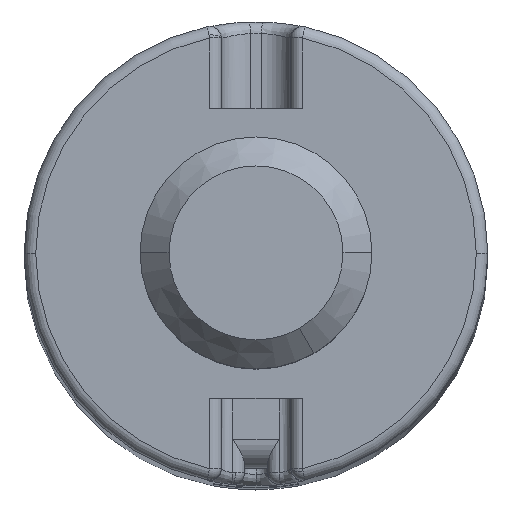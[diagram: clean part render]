
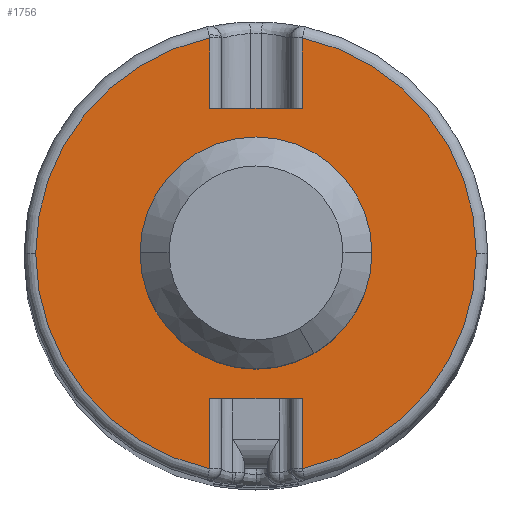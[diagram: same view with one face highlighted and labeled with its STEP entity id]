
A CAD part, top view. The second image highlights one B-rep face of the part: STEP entity #1756.
In plain terms, the highlighted planar face has unit normal (0, 0, 1).
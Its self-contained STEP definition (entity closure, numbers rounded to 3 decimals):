
#662=AXIS2_PLACEMENT_3D('Circle Axis2P3D',#660,#661,$) ;
#985=AXIS2_PLACEMENT_3D('Circle Axis2P3D',#983,#984,$) ;
#1619=AXIS2_PLACEMENT_3D('Circle Axis2P3D',#1617,#1618,$) ;
#1679=AXIS2_PLACEMENT_3D('Plane Axis2P3D',#1676,#1677,#1678) ;
#1716=AXIS2_PLACEMENT_3D('Circle Axis2P3D',#1714,#1715,$) ;
#1740=AXIS2_PLACEMENT_3D('Circle Axis2P3D',#1738,#1739,$) ;
#1749=AXIS2_PLACEMENT_3D('Circle Axis2P3D',#1747,#1748,$) ;
#643=CARTESIAN_POINT('Vertex',(3.8,0.,24.5)) ;
#657=CARTESIAN_POINT('Vertex',(0.8,3.715,24.5)) ;
#660=CARTESIAN_POINT('Axis2P3D Location',(0.,0.,24.5)) ;
#980=CARTESIAN_POINT('Vertex',(-3.8,0.,24.5)) ;
#983=CARTESIAN_POINT('Axis2P3D Location',(0.,0.,24.5)) ;
#987=CARTESIAN_POINT('Vertex',(-0.8,3.715,24.5)) ;
#1617=CARTESIAN_POINT('Axis2P3D Location',(0.,0.,24.5)) ;
#1621=CARTESIAN_POINT('Vertex',(0.8,-3.715,24.5)) ;
#1676=CARTESIAN_POINT('Axis2P3D Location',(0.,0.,24.5)) ;
#1681=CARTESIAN_POINT('Line Origine',(0.,-2.5,24.5)) ;
#1685=CARTESIAN_POINT('Vertex',(0.8,-2.5,24.5)) ;
#1687=CARTESIAN_POINT('Vertex',(-0.8,-2.5,24.5)) ;
#1690=CARTESIAN_POINT('Line Origine',(0.8,-3.107,24.5)) ;
#1695=CARTESIAN_POINT('Line Origine',(0.8,3.107,24.5)) ;
#1699=CARTESIAN_POINT('Vertex',(0.8,2.5,24.5)) ;
#1702=CARTESIAN_POINT('Line Origine',(0.,2.5,24.5)) ;
#1706=CARTESIAN_POINT('Vertex',(-0.8,2.5,24.5)) ;
#1709=CARTESIAN_POINT('Line Origine',(-0.8,3.107,24.5)) ;
#1714=CARTESIAN_POINT('Axis2P3D Location',(0.,0.,24.5)) ;
#1718=CARTESIAN_POINT('Vertex',(-0.8,-3.715,24.5)) ;
#1721=CARTESIAN_POINT('Line Origine',(-0.8,-3.107,24.5)) ;
#1738=CARTESIAN_POINT('Axis2P3D Location',(0.,0.,24.5)) ;
#1742=CARTESIAN_POINT('Vertex',(-2.,0.,24.5)) ;
#1744=CARTESIAN_POINT('Vertex',(2.,0.,24.5)) ;
#1747=CARTESIAN_POINT('Axis2P3D Location',(0.,0.,24.5)) ;
#661=DIRECTION('Axis2P3D Direction',(-0.,0.,1.)) ;
#984=DIRECTION('Axis2P3D Direction',(-0.,0.,1.)) ;
#1618=DIRECTION('Axis2P3D Direction',(0.,0.,1.)) ;
#1677=DIRECTION('Axis2P3D Direction',(0.,0.,1.)) ;
#1678=DIRECTION('Axis2P3D XDirection',(1.,0.,0.)) ;
#1682=DIRECTION('Vector Direction',(1.,0.,0.)) ;
#1691=DIRECTION('Vector Direction',(0.,1.,0.)) ;
#1696=DIRECTION('Vector Direction',(0.,1.,0.)) ;
#1703=DIRECTION('Vector Direction',(1.,0.,0.)) ;
#1710=DIRECTION('Vector Direction',(0.,-1.,0.)) ;
#1715=DIRECTION('Axis2P3D Direction',(0.,0.,1.)) ;
#1722=DIRECTION('Vector Direction',(0.,-1.,0.)) ;
#1739=DIRECTION('Axis2P3D Direction',(0.,0.,1.)) ;
#1748=DIRECTION('Axis2P3D Direction',(0.,0.,1.)) ;
#1683=VECTOR('Line Direction',#1682,1.) ;
#1692=VECTOR('Line Direction',#1691,1.) ;
#1697=VECTOR('Line Direction',#1696,1.) ;
#1704=VECTOR('Line Direction',#1703,1.) ;
#1711=VECTOR('Line Direction',#1710,1.) ;
#1723=VECTOR('Line Direction',#1722,1.) ;
#1727=ORIENTED_EDGE('',*,*,#1689,.F.) ;
#1728=ORIENTED_EDGE('',*,*,#1694,.F.) ;
#1729=ORIENTED_EDGE('',*,*,#1623,.T.) ;
#1730=ORIENTED_EDGE('',*,*,#664,.T.) ;
#1731=ORIENTED_EDGE('',*,*,#1701,.F.) ;
#1732=ORIENTED_EDGE('',*,*,#1708,.F.) ;
#1733=ORIENTED_EDGE('',*,*,#1713,.F.) ;
#1734=ORIENTED_EDGE('',*,*,#989,.T.) ;
#1735=ORIENTED_EDGE('',*,*,#1720,.T.) ;
#1736=ORIENTED_EDGE('',*,*,#1725,.F.) ;
#1753=ORIENTED_EDGE('',*,*,#1746,.F.) ;
#1754=ORIENTED_EDGE('',*,*,#1751,.F.) ;
#1755=FACE_BOUND('',#1752,.T.) ;
#1756=ADVANCED_FACE('\X2\96F64EF651E04F554F53\X0\',(#1737,#1755),#1680,.T.) ;
#663=CIRCLE('generated circle',#662,3.8) ;
#986=CIRCLE('generated circle',#985,3.8) ;
#1620=CIRCLE('generated circle',#1619,3.8) ;
#1717=CIRCLE('generated circle',#1716,3.8) ;
#1741=CIRCLE('generated circle',#1740,2.) ;
#1750=CIRCLE('generated circle',#1749,2.) ;
#664=EDGE_CURVE('',#644,#658,#663,.T.) ;
#989=EDGE_CURVE('',#988,#981,#986,.T.) ;
#1623=EDGE_CURVE('',#1622,#644,#1620,.T.) ;
#1689=EDGE_CURVE('',#1686,#1688,#1684,.F.) ;
#1694=EDGE_CURVE('',#1622,#1686,#1693,.T.) ;
#1701=EDGE_CURVE('',#1700,#658,#1698,.T.) ;
#1708=EDGE_CURVE('',#1707,#1700,#1705,.T.) ;
#1713=EDGE_CURVE('',#988,#1707,#1712,.T.) ;
#1720=EDGE_CURVE('',#981,#1719,#1717,.T.) ;
#1725=EDGE_CURVE('',#1688,#1719,#1724,.T.) ;
#1746=EDGE_CURVE('',#1743,#1745,#1741,.T.) ;
#1751=EDGE_CURVE('',#1745,#1743,#1750,.T.) ;
#1726=EDGE_LOOP('',(#1727,#1728,#1729,#1730,#1731,#1732,#1733,#1734,#1735,#1736)) ;
#1752=EDGE_LOOP('',(#1753,#1754)) ;
#1737=FACE_OUTER_BOUND('',#1726,.T.) ;
#1684=LINE('Line',#1681,#1683) ;
#1693=LINE('Line',#1690,#1692) ;
#1698=LINE('Line',#1695,#1697) ;
#1705=LINE('Line',#1702,#1704) ;
#1712=LINE('Line',#1709,#1711) ;
#1724=LINE('Line',#1721,#1723) ;
#1680=PLANE('Plane',#1679) ;
#644=VERTEX_POINT('',#643) ;
#658=VERTEX_POINT('',#657) ;
#981=VERTEX_POINT('',#980) ;
#988=VERTEX_POINT('',#987) ;
#1622=VERTEX_POINT('',#1621) ;
#1686=VERTEX_POINT('',#1685) ;
#1688=VERTEX_POINT('',#1687) ;
#1700=VERTEX_POINT('',#1699) ;
#1707=VERTEX_POINT('',#1706) ;
#1719=VERTEX_POINT('',#1718) ;
#1743=VERTEX_POINT('',#1742) ;
#1745=VERTEX_POINT('',#1744) ;
